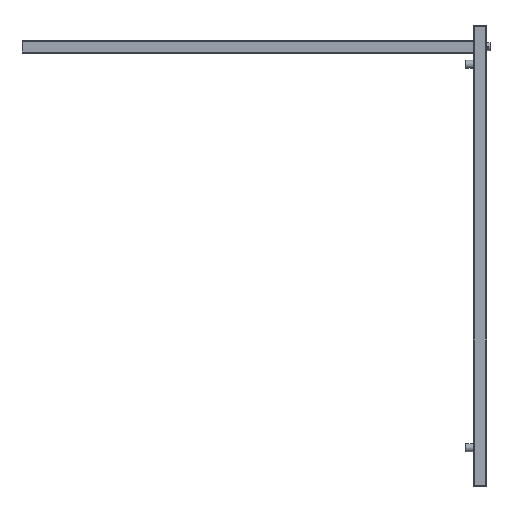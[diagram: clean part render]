
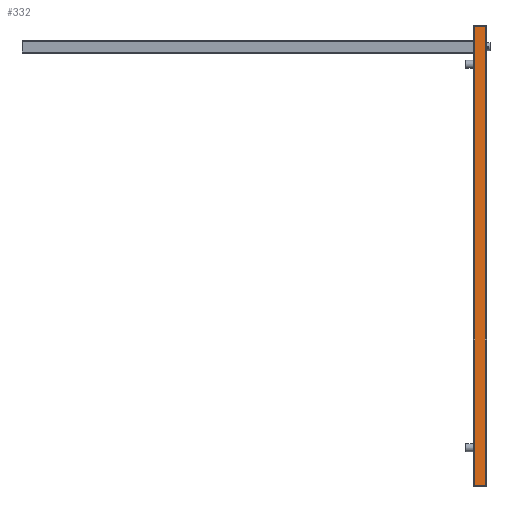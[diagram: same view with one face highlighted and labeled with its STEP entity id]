
A CAD part, left-side view. The second image highlights one B-rep face of the part: STEP entity #332.
In plain terms, the highlighted planar face has unit normal (-1, 0, 0) as drawn and (0, 0, -1) by its records, which use the part's own axes.
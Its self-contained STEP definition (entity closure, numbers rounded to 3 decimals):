
#332 = ADVANCED_FACE( '', ( #851 ), #852, .T. );
#851 = FACE_OUTER_BOUND( '', #1589, .T. );
#852 = PLANE( '', #1590 );
#1589 = EDGE_LOOP( '', ( #2639, #2640, #2641, #2642 ) );
#1590 = AXIS2_PLACEMENT_3D( '', #2643, #2644, #2645 );
#2639 = ORIENTED_EDGE( '', *, *, #4463, .F. );
#2640 = ORIENTED_EDGE( '', *, *, #4464, .T. );
#2641 = ORIENTED_EDGE( '', *, *, #4465, .T. );
#2642 = ORIENTED_EDGE( '', *, *, #4466, .T. );
#2643 = CARTESIAN_POINT( '', ( -15., 1056., -15. ) );
#2644 = DIRECTION( '', ( 0., 0., -1. ) );
#2645 = DIRECTION( '', ( -1., 0., 0. ) );
#4463 = EDGE_CURVE( '', #5462, #5463, #5464, .T. );
#4464 = EDGE_CURVE( '', #5462, #5465, #5466, .F. );
#4465 = EDGE_CURVE( '', #5465, #5467, #5468, .T. );
#4466 = EDGE_CURVE( '', #5467, #5463, #5469, .T. );
#5462 = VERTEX_POINT( '', #6778 );
#5463 = VERTEX_POINT( '', #6779 );
#5464 = LINE( '', #6780, #6781 );
#5465 = VERTEX_POINT( '', #6782 );
#5466 = LINE( '', #6783, #6784 );
#5467 = VERTEX_POINT( '', #6785 );
#5468 = LINE( '', #6786, #6787 );
#5469 = LINE( '', #6788, #6789 );
#6778 = CARTESIAN_POINT( '', ( -12., 0., -15. ) );
#6779 = CARTESIAN_POINT( '', ( 12., 0., -15. ) );
#6780 = CARTESIAN_POINT( '', ( -15., 0., -15. ) );
#6781 = VECTOR( '', #8110, 1000. );
#6782 = CARTESIAN_POINT( '', ( -12., 1056., -15. ) );
#6783 = CARTESIAN_POINT( '', ( -12., 1056., -15. ) );
#6784 = VECTOR( '', #8111, 1000. );
#6785 = CARTESIAN_POINT( '', ( 12., 1056., -15. ) );
#6786 = CARTESIAN_POINT( '', ( -15., 1056., -15. ) );
#6787 = VECTOR( '', #8112, 1000. );
#6788 = CARTESIAN_POINT( '', ( 12., 1056., -15. ) );
#6789 = VECTOR( '', #8113, 1000. );
#8110 = DIRECTION( '', ( 1., 0., 0. ) );
#8111 = DIRECTION( '', ( 0., -1., 0. ) );
#8112 = DIRECTION( '', ( 1., 0., 0. ) );
#8113 = DIRECTION( '', ( 0., -1., 0. ) );
